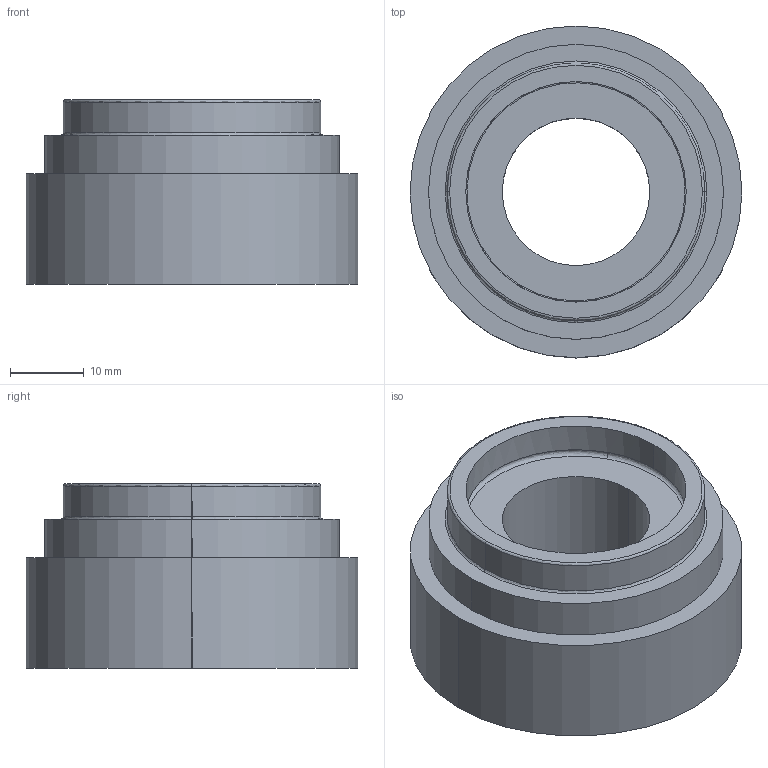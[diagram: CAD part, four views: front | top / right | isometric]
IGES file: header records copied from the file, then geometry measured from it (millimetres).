
Start section: START RECORD GO HERE.
Global section: file name: Bague coulissantePh20.igs; native system: IBM CATIA IGES - CATIA Version 5 Release 19 ; preprocessor: CATIA Version 5 Release 19 ; author: Laurent; organization: Laurent-PC; date: 20170126.150321; units: millimetre
Bounding box: 45 x 45 x 25 mm (x, y, z)
Surface area: 7575.6 mm2 (no closed solid volume)
Topology: 0 solids, 0 shells, 21 faces, 88 edges, 88 vertices
Faces by surface type: revolution 16, plane 5
